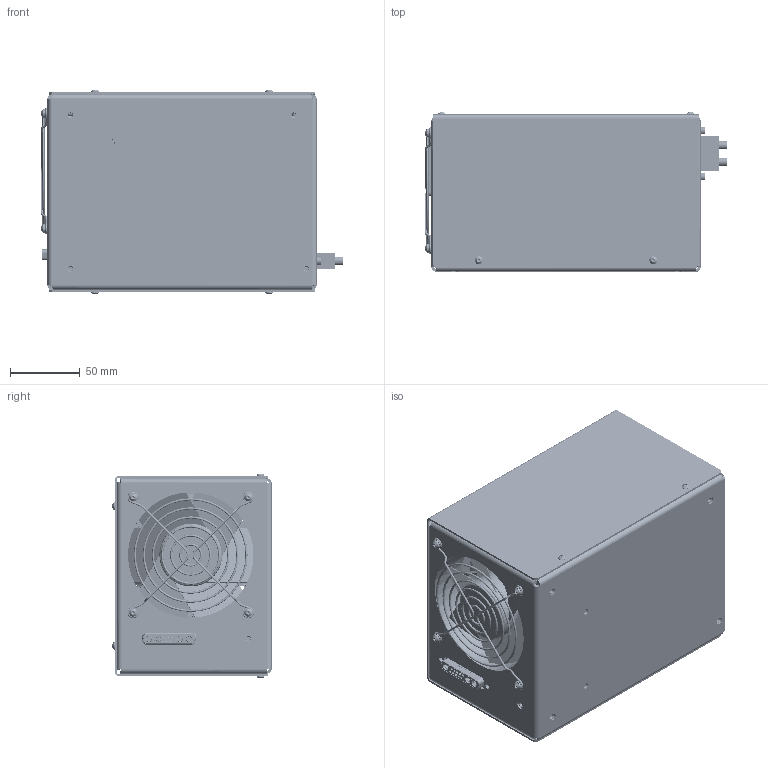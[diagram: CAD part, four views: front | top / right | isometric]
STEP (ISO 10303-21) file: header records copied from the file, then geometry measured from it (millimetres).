
FILE_DESCRIPTION (( 'STEP AP214' ), '1' );
FILE_NAME ('2020.01.00.000-04 FLDmini.STEP', '2021-09-03T08:33:30', ( '' ), ( '' ), 'SwSTEP 2.0', 'SolidWorks 2018', '' );
FILE_SCHEMA (( 'AUTOMOTIVE_DESIGN' ));
Length unit declared in the file: millimetre
Products named in the file (326): C32SBZ60_revC - SBZ60 RevC; C63.2SBZ60_revC - SBZ60 RevC; R51.3SBZ60_revC - SBZ60 RevC; R46SBZ60_revC - SBZ60 RevC; 2020.01.01.200-02 Ïëàíêà â ñáîðå; Cylinder_11 - SBZ60 RevC; R55SBZ60_revC - SBZ60 RevC; R37.5SBZ60_revC - SBZ60 RevC; C15.2SBZ60_revC - SBZ60 RevC; C5SBZ60_revC - SBZ60 RevC; Âèíò Ì3õ8 À2 DIN912; X2SBZ60_revC - SBZ60 RevC; 2020.01.01.201-02 砑鳧罻; 1163937760 - SBZ60 RevC; C59SBZ60_revC - SBZ60 RevC; FCI 13W3 DATA CONTACT FEMALE; D22SBZ60_revC - SBZ60 RevC; User_Library-SMD_Ceramic_Capacitors_1210_(3225)_FH - SBZ60 RevC; C30SBZ60_revC - SBZ60 RevC; R35SBZ60_revC - SBZ60 RevC; 1163937376 - SBZ60 RevC; Open CASCADE STEP translator 6.8 1.106.1.1 - SBZ60 RevC; User_Library-DIOM5528X26 - SBZ60 RevC; HVPS800 revB; DD1SBZ60_revC - SBZ60 RevC; User_Library-FYLS-1206 - SBZ60 RevC; 7446622002_2 - SBZ60 RevC; R52.3SBZ60_revC - SBZ60 RevC; User_Library-res2512_res2512_body___ - SBZ60 RevC; MF-6MA - SBZ60 RevC; R2SBZ60_revC - SBZ60 RevC; 1163938144 - SBZ60 RevC; X1SBZ60_revC - SBZ60 RevC; FLDM700 RevB; X5SBZ60_revC - SBZ60 RevC; C1.1SBZ60_revC - SBZ60 RevC; R21SBZ60_revC - SBZ60 RevC; T颃餩瘕腐馉_TR1 - SBZ60 RevC; C31SBZ60_revC - SBZ60 RevC; Capacitor_film_pitch15 - SBZ60 RevC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
Assembly tree (658 placements, depth 5):
  2020.01.00.000-04 FLDmini
    2020.01.01.000-04 Êîðïóñ â ñáîðå
      2020.01.01.001-03 扻豵鵨
      2020.01.01.100-01 Ïëàíêà â ñáîðå
        2020.01.01.101-01 砑鳧罻
        Âòóëêà ðåçüá. íåïîëíîïðîõ. BSO-M3-8 ZI_BSO-M3-8-ZI  x2
        Ãàéêà CN clinch nut M4
        Ãàéêà CN clinch nut M3  x4
      2020.01.01.200-02 Ïëàíêà â ñáîðå
        2020.01.01.201-02 砑鳧罻
        Âòóëêà ðåçüá. íåïîëíîïðîõ. BSO-M3-8 ZI_BSO-M3-8-ZI  x2
      2020.01.01.300 Ïëàñòèíà â ñáîðå
        2020.01.01.301 砑僔蠂縺
        Âòóëêà ðåçüá. íåïîëíîïðîõ. BSO-M3-8 ZI_BSO-M3-8-ZI  x4
        CN clinch nut M3  x4
      Fan 92mm
      Ðåøåòêà 92õ92
      Âòóëêà ðåçüá. íåïîëíîïðîõ. BSO-M3-10 ZI  x4
      Âòóëêà ðåçüá. íåïîëíîïðîõ. BSO-M3-25 ZI  x4
      ﾘ琺矜 ﾌ3 DIN125  x4
      ﾘ琺矜 ﾌ3 DIN127  x4
      妈眚 󉱭0 ISO7380 A2  x4
      Çàêëåïêà ñ ïîòàéíîé ãîëîâêîé 3,2x10-AlSt ISO 15978  x11
      Ãàéêà CN clinch nut M3  x8
      Ãàéêà CN clinch nut M4  x5
      妈眚 󉱲 DIN7991  x4
    2020.01.00.001 Êðûøêà_-00
    HVPS800 revB
    FLDM700 RevB
    INPUT(FCI-DB13W3SA00LF)
      FCI-DB013W3SAOOLF
      FCI 13W3 DATA CONTACT FEMALE  x10
      25937 - FCI-8638PSS1005LF  x3
    VP-CL-2HV
    _04 - SBZ60 RevC - SBZ60 RevC
      BoardSBZ60_revC - SBZ60 RevC
      J3.2SBZ60_revC - SBZ60 RevC
        User_Library-RESC3216X06N - SBZ60 RevC
      J3.1SBZ60_revC - SBZ60 RevC
        User_Library-RESC3216X06N - SBZ60 RevC
      J2.2SBZ60_revC - SBZ60 RevC
        User_Library-RESC3216X06N - SBZ60 RevC
      J2.1SBZ60_revC - SBZ60 RevC
        User_Library-RESC3216X06N - SBZ60 RevC
      J1.2SBZ60_revC - SBZ60 RevC
        User_Library-RESC3216X06N - SBZ60 RevC
      J1.1SBZ60_revC - SBZ60 RevC
        User_Library-RESC3216X06N - SBZ60 RevC
      J5SBZ60_revC - SBZ60 RevC
        1163938528 - SBZ60 RevC
          Cylinder - SBZ60 RevC
      J4SBZ60_revC - SBZ60 RevC
        1163938528 - SBZ60 RevC
          Cylinder - SBZ60 RevC
      C52.2SBZ60_revC - SBZ60 RevC
        User_Library-CAPC3216X___ - SBZ60 RevC
      R9SBZ60_revC - SBZ60 RevC
        User_Library-RESC3216X06N - SBZ60 RevC
      R8SBZ60_revC - SBZ60 RevC
        User_Library-RESC3216X06N - SBZ60 RevC
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Bounding box: 216.75 x 114.15 x 146.8 mm (x, y, z)
Volume: 426011.6 mm3; surface area: 646869.4 mm2
Topology: 572 solids, 2001 shells, 41448 faces, 120829 edges, 82681 vertices
Faces by surface type: plane 20367, cylinder 10843, bspline 8929, cone 724, torus 489, sphere 96
Entity records: 776945 total; most frequent: CARTESIAN_POINT 241963, ORIENTED_EDGE 80297, DIRECTION 77104, EDGE_CURVE 50995, VERTEX_POINT 38806, LINE 33404, VECTOR 33404, AXIS2_PLACEMENT_3D 21850
